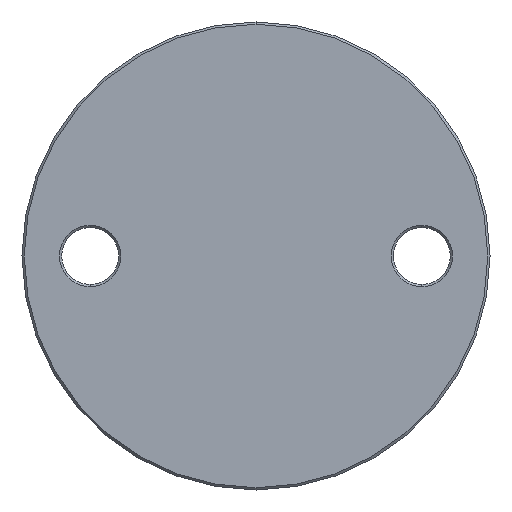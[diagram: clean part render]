
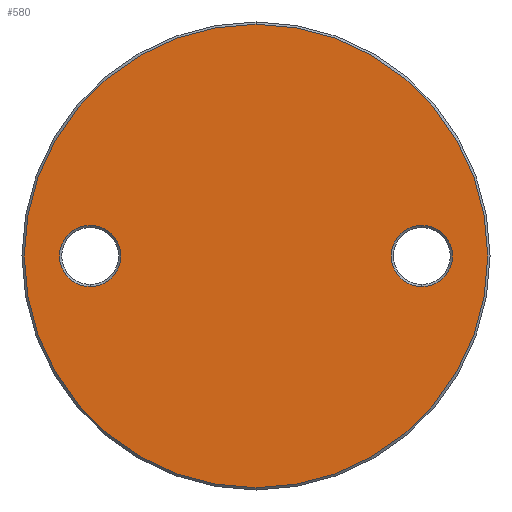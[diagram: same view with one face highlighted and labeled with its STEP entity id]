
A CAD part, front view. The second image highlights one B-rep face of the part: STEP entity #580.
In plain terms, the highlighted planar face has unit normal (0, -1, 0).
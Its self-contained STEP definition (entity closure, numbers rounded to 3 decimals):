
#20 = EDGE_CURVE ( 'NONE', #6092, #8551, #3418, .T. ) ;
#66 = AXIS2_PLACEMENT_3D ( 'NONE', #7187, #3230, #4008 ) ;
#70 = CARTESIAN_POINT ( 'NONE',  ( 0., -3., -51. ) ) ;
#139 = ORIENTED_EDGE ( 'NONE', *, *, #20, .T. ) ;
#181 = DIRECTION ( 'NONE',  ( 0., 1., 0. ) ) ;
#251 = AXIS2_PLACEMENT_3D ( 'NONE', #992, #6318, #7560 ) ;
#259 = PLANE ( 'NONE',  #5804 ) ;
#267 = DIRECTION ( 'NONE',  ( 0., 0., -1. ) ) ;
#277 = CIRCLE ( 'NONE', #2786, 51. ) ;
#504 = VERTEX_POINT ( 'NONE', #2179 ) ;
#580 = ADVANCED_FACE ( 'NONE', ( #7553, #3833, #1841 ), #259, .T. ) ;
#765 = ORIENTED_EDGE ( 'NONE', *, *, #4480, .T. ) ;
#992 = CARTESIAN_POINT ( 'NONE',  ( 0., -3., 0. ) ) ;
#1052 = CARTESIAN_POINT ( 'NONE',  ( 0., -3., 0. ) ) ;
#1269 = VERTEX_POINT ( 'NONE', #1985 ) ;
#1340 = ORIENTED_EDGE ( 'NONE', *, *, #6714, .T. ) ;
#1394 = ORIENTED_EDGE ( 'NONE', *, *, #5685, .T. ) ;
#1638 = CARTESIAN_POINT ( 'NONE',  ( 0., -3., 51.5 ) ) ;
#1841 = FACE_OUTER_BOUND ( 'NONE', #5233, .T. ) ;
#1985 = CARTESIAN_POINT ( 'NONE',  ( -36.5, -3., 6.75 ) ) ;
#2179 = CARTESIAN_POINT ( 'NONE',  ( -36.5, -3., -6.75 ) ) ;
#2206 = CIRCLE ( 'NONE', #66, 6.75 ) ;
#2328 = DIRECTION ( 'NONE',  ( 0., 0., -1. ) ) ;
#2438 = DIRECTION ( 'NONE',  ( 0., 1., 0. ) ) ;
#2556 = CIRCLE ( 'NONE', #4832, 6.75 ) ;
#2619 = CARTESIAN_POINT ( 'NONE',  ( 36.5, -3., 6.75 ) ) ;
#2622 = EDGE_LOOP ( 'NONE', ( #3808, #1340 ) ) ;
#2624 = DIRECTION ( 'NONE',  ( 0., 0., -1. ) ) ;
#2745 = EDGE_CURVE ( 'NONE', #504, #1269, #2556, .T. ) ;
#2786 = AXIS2_PLACEMENT_3D ( 'NONE', #1052, #4400, #2624 ) ;
#2801 = CARTESIAN_POINT ( 'NONE',  ( -36.5, -3., 0. ) ) ;
#2931 = CARTESIAN_POINT ( 'NONE',  ( 36.5, -3., 0. ) ) ;
#3230 = DIRECTION ( 'NONE',  ( 0., 1., 0. ) ) ;
#3418 = CIRCLE ( 'NONE', #251, 51. ) ;
#3428 = VERTEX_POINT ( 'NONE', #6451 ) ;
#3808 = ORIENTED_EDGE ( 'NONE', *, *, #2745, .T. ) ;
#3833 = FACE_BOUND ( 'NONE', #2622, .T. ) ;
#3980 = CIRCLE ( 'NONE', #8372, 6.75 ) ;
#4008 = DIRECTION ( 'NONE',  ( 0., 0., -1. ) ) ;
#4400 = DIRECTION ( 'NONE',  ( 0., -1., 0. ) ) ;
#4434 = CARTESIAN_POINT ( 'NONE',  ( -36.5, -3., 0. ) ) ;
#4480 = EDGE_CURVE ( 'NONE', #8551, #6092, #277, .T. ) ;
#4832 = AXIS2_PLACEMENT_3D ( 'NONE', #4434, #2438, #5159 ) ;
#5159 = DIRECTION ( 'NONE',  ( 0., 0., -1. ) ) ;
#5233 = EDGE_LOOP ( 'NONE', ( #765, #139 ) ) ;
#5556 = DIRECTION ( 'NONE',  ( 0., 1., 0. ) ) ;
#5611 = AXIS2_PLACEMENT_3D ( 'NONE', #2931, #5556, #2328 ) ;
#5685 = EDGE_CURVE ( 'NONE', #7135, #3428, #7296, .T. ) ;
#5804 = AXIS2_PLACEMENT_3D ( 'NONE', #1638, #8179, #6205 ) ;
#5862 = EDGE_LOOP ( 'NONE', ( #6101, #1394 ) ) ;
#6092 = VERTEX_POINT ( 'NONE', #70 ) ;
#6101 = ORIENTED_EDGE ( 'NONE', *, *, #7124, .T. ) ;
#6205 = DIRECTION ( 'NONE',  ( 0., 0., -1. ) ) ;
#6318 = DIRECTION ( 'NONE',  ( 0., -1., 0. ) ) ;
#6451 = CARTESIAN_POINT ( 'NONE',  ( 36.5, -3., -6.75 ) ) ;
#6714 = EDGE_CURVE ( 'NONE', #1269, #504, #3980, .T. ) ;
#7124 = EDGE_CURVE ( 'NONE', #3428, #7135, #2206, .T. ) ;
#7135 = VERTEX_POINT ( 'NONE', #2619 ) ;
#7187 = CARTESIAN_POINT ( 'NONE',  ( 36.5, -3., 0. ) ) ;
#7296 = CIRCLE ( 'NONE', #5611, 6.75 ) ;
#7553 = FACE_BOUND ( 'NONE', #5862, .T. ) ;
#7560 = DIRECTION ( 'NONE',  ( 0., 0., -1. ) ) ;
#8158 = CARTESIAN_POINT ( 'NONE',  ( 0., -3., 51. ) ) ;
#8179 = DIRECTION ( 'NONE',  ( 0., -1., 0. ) ) ;
#8372 = AXIS2_PLACEMENT_3D ( 'NONE', #2801, #181, #267 ) ;
#8551 = VERTEX_POINT ( 'NONE', #8158 ) ;
